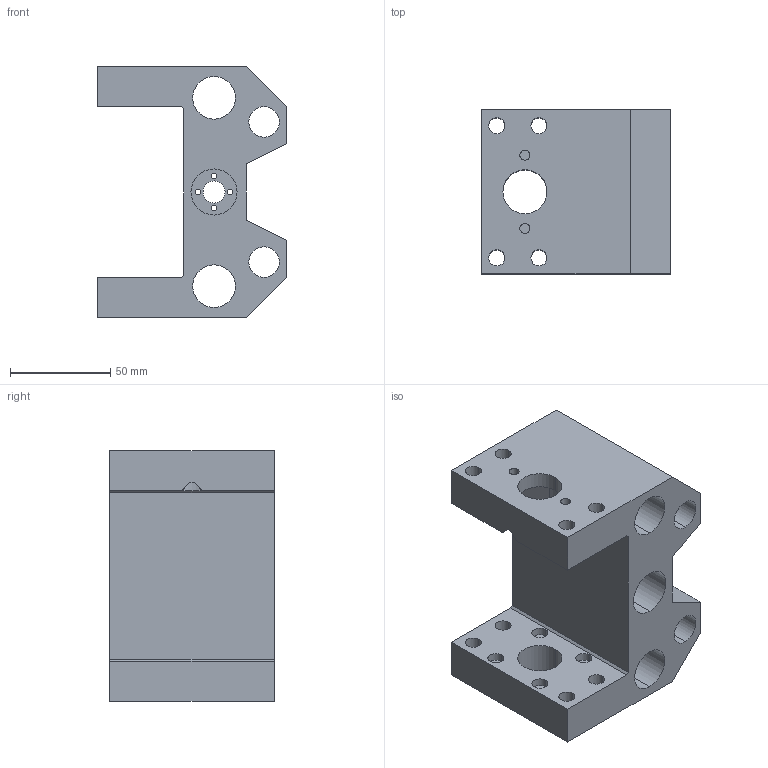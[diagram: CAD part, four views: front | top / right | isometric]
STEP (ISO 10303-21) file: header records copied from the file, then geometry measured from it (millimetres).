
FILE_DESCRIPTION (( 'STEP AP203' ), '1' );
FILE_NAME ('karetka Z.STEP', '2023-07-14T06:23:28', ( '' ), ( '' ), 'SwSTEP 2.0', 'SolidWorks 2014', '' );
FILE_SCHEMA (( 'CONFIG_CONTROL_DESIGN' ));
Length unit declared in the file: millimetre
Products named in the file (1): karetka Z
Bounding box: 94 x 82 x 125 mm (x, y, z)
Volume: 428312.3 mm3; surface area: 85297.4 mm2
Topology: 1 solids, 1 shells, 99 faces, 273 edges, 182 vertices
Faces by surface type: cylinder 67, plane 32
Entity records: 3400 total; most frequent: DIRECTION 607, CARTESIAN_POINT 561, ORIENTED_EDGE 546, EDGE_CURVE 273, AXIS2_PLACEMENT_3D 236, VERTEX_POINT 182, EDGE_LOOP 155, CIRCLE 136
